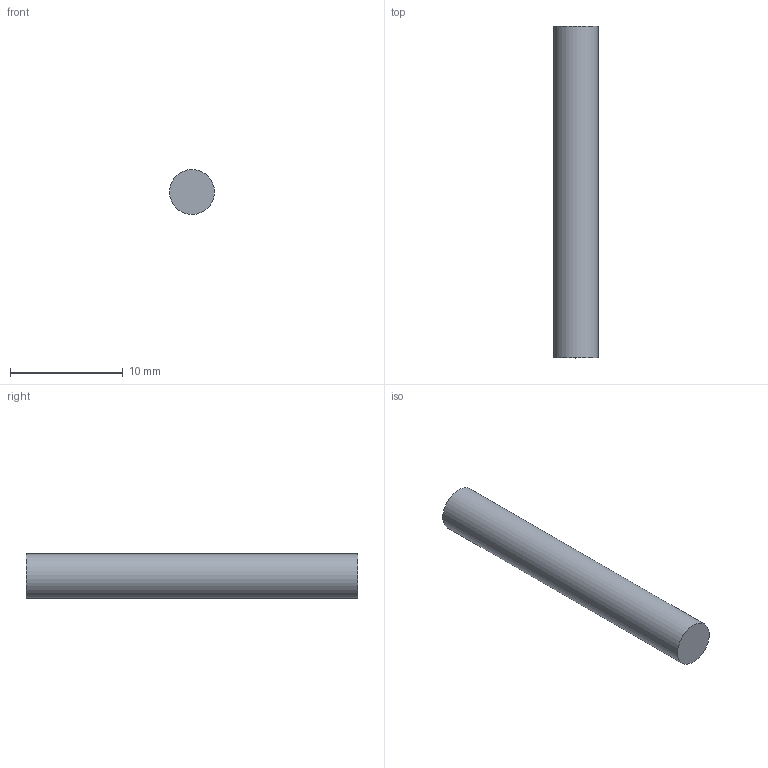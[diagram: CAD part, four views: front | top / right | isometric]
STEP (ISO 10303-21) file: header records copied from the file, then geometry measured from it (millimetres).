
FILE_DESCRIPTION(('Open CASCADE Model'),'2;1');
FILE_NAME('Open CASCADE Shape Model','2026-10-16T05:25:08',('Author'),( 'Open CASCADE'),'Open CASCADE STEP processor 7.9','Open CASCADE 7.9' ,'Unknown');
FILE_SCHEMA(('AUTOMOTIVE_DESIGN { 1 0 10303 214 1 1 1 1 }'));
Length unit declared in the file: millimetre
Products named in the file (1): Open CASCADE STEP translator 7.9 9
Bounding box: 4 x 29.5 x 4 mm (x, y, z)
Volume: 370.7 mm3; surface area: 395.8 mm2
Topology: 1 solids, 1 shells, 3 faces, 3 edges, 2 vertices
Faces by surface type: plane 2, cylinder 1
Full cylindrical faces by diameter (mm): 4 x1
Entity records: 108 total; most frequent: DIRECTION 19, CARTESIAN_POINT 15, AXIS2_PLACEMENT_3D 6, ORIENTED_EDGE 6, PCURVE 6, DEFINITIONAL_REPRESENTATION 6, LINE 5, VECTOR 5
